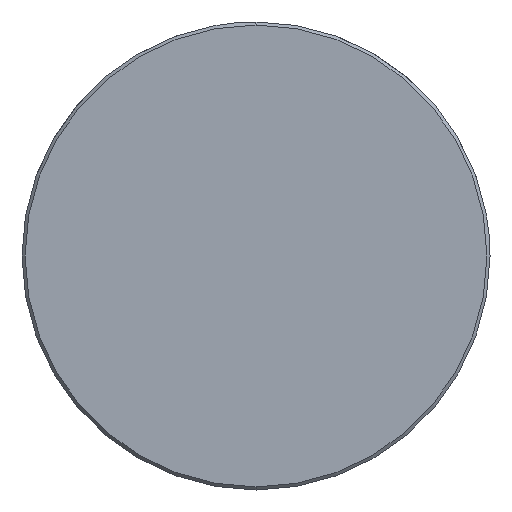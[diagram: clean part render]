
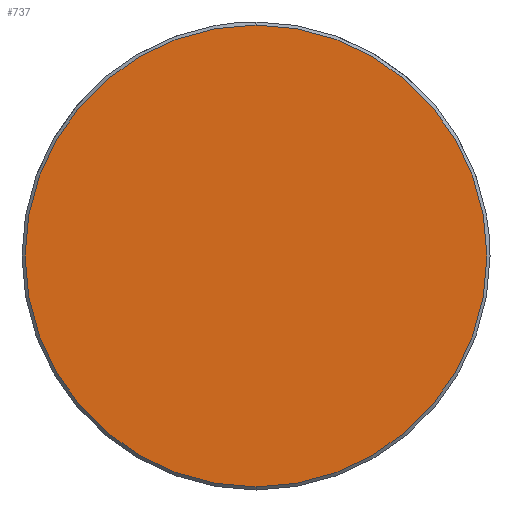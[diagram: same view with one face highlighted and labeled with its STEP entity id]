
A CAD part, left-side view. The second image highlights one B-rep face of the part: STEP entity #737.
In plain terms, the highlighted planar face has unit normal (-1, 0, 0).
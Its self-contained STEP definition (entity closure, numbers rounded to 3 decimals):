
#669=CARTESIAN_POINT('Vertex',(0.,0.,-22.2)) ;
#672=CARTESIAN_POINT('Axis2P3D Location',(0.,0.,0.)) ;
#676=CARTESIAN_POINT('Vertex',(0.,22.2,0.)) ;
#679=CARTESIAN_POINT('Axis2P3D Location',(0.,0.,0.)) ;
#683=CARTESIAN_POINT('Vertex',(0.,0.,22.2)) ;
#705=CARTESIAN_POINT('Axis2P3D Location',(0.,0.,0.)) ;
#709=CARTESIAN_POINT('Vertex',(0.,-22.2,0.)) ;
#712=CARTESIAN_POINT('Axis2P3D Location',(0.,0.,0.)) ;
#726=CARTESIAN_POINT('Axis2P3D Location',(0.,0.,0.)) ;
#673=DIRECTION('Axis2P3D Direction',(1.,0.,-0.)) ;
#680=DIRECTION('Axis2P3D Direction',(1.,0.,-0.)) ;
#706=DIRECTION('Axis2P3D Direction',(1.,0.,-0.)) ;
#713=DIRECTION('Axis2P3D Direction',(1.,0.,-0.)) ;
#727=DIRECTION('Axis2P3D Direction',(1.,0.,-0.)) ;
#728=DIRECTION('Axis2P3D XDirection',(-0.,0.,-1.)) ;
#674=AXIS2_PLACEMENT_3D('Circle Axis2P3D',#672,#673,$) ;
#681=AXIS2_PLACEMENT_3D('Circle Axis2P3D',#679,#680,$) ;
#707=AXIS2_PLACEMENT_3D('Circle Axis2P3D',#705,#706,$) ;
#714=AXIS2_PLACEMENT_3D('Circle Axis2P3D',#712,#713,$) ;
#729=AXIS2_PLACEMENT_3D('Plane Axis2P3D',#726,#727,#728) ;
#732=ORIENTED_EDGE('',*,*,#678,.F.) ;
#733=ORIENTED_EDGE('',*,*,#716,.F.) ;
#734=ORIENTED_EDGE('',*,*,#711,.F.) ;
#735=ORIENTED_EDGE('',*,*,#685,.F.) ;
#737=ADVANCED_FACE('549-40X250',(#736),#730,.F.) ;
#675=CIRCLE('generated circle',#674,22.2) ;
#682=CIRCLE('generated circle',#681,22.2) ;
#708=CIRCLE('generated circle',#707,22.2) ;
#715=CIRCLE('generated circle',#714,22.2) ;
#678=EDGE_CURVE('',#670,#677,#675,.T.) ;
#685=EDGE_CURVE('',#677,#684,#682,.T.) ;
#711=EDGE_CURVE('',#684,#710,#708,.T.) ;
#716=EDGE_CURVE('',#710,#670,#715,.T.) ;
#731=EDGE_LOOP('',(#732,#733,#734,#735)) ;
#736=FACE_OUTER_BOUND('',#731,.T.) ;
#730=PLANE('Plane',#729) ;
#670=VERTEX_POINT('',#669) ;
#677=VERTEX_POINT('',#676) ;
#684=VERTEX_POINT('',#683) ;
#710=VERTEX_POINT('',#709) ;
